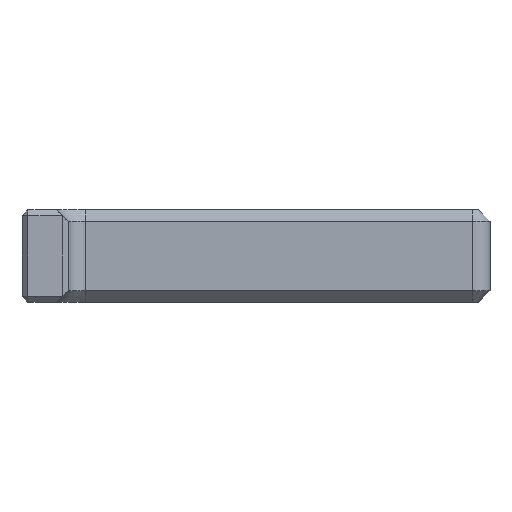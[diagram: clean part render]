
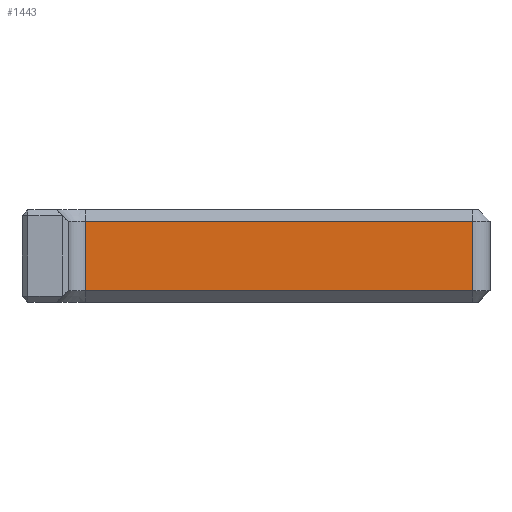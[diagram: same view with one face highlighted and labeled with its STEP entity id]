
A CAD part, left-side view. The second image highlights one B-rep face of the part: STEP entity #1443.
In plain terms, the highlighted planar face has unit normal (-1, 0, 0).
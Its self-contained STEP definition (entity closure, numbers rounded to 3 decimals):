
#149=FACE_OUTER_BOUND('',#239,.T.);
#239=EDGE_LOOP('',(#1249,#1250,#1251,#1252));
#391=LINE('',#2338,#559);
#406=LINE('',#2379,#574);
#407=LINE('',#2383,#575);
#408=LINE('',#2384,#576);
#559=VECTOR('',#1917,10.);
#574=VECTOR('',#1964,10.);
#575=VECTOR('',#1969,10.);
#576=VECTOR('',#1970,10.);
#685=VERTEX_POINT('',#2332);
#686=VERTEX_POINT('',#2336);
#696=VERTEX_POINT('',#2378);
#697=VERTEX_POINT('',#2382);
#864=EDGE_CURVE('',#685,#686,#391,.T.);
#884=EDGE_CURVE('',#686,#696,#406,.T.);
#886=EDGE_CURVE('',#697,#685,#407,.T.);
#887=EDGE_CURVE('',#696,#697,#408,.T.);
#1249=ORIENTED_EDGE('',*,*,#864,.F.);
#1250=ORIENTED_EDGE('',*,*,#886,.F.);
#1251=ORIENTED_EDGE('',*,*,#887,.F.);
#1252=ORIENTED_EDGE('',*,*,#884,.F.);
#1358=PLANE('',#1578);
#1443=ADVANCED_FACE('',(#149),#1358,.T.);
#1578=AXIS2_PLACEMENT_3D('',#2381,#1967,#1968);
#1917=DIRECTION('',(0.,-1.,0.));
#1964=DIRECTION('',(0.,0.,-1.));
#1967=DIRECTION('center_axis',(-1.,0.,0.));
#1968=DIRECTION('ref_axis',(0.,-1.,0.));
#1969=DIRECTION('',(0.,0.,1.));
#1970=DIRECTION('',(0.,1.,0.));
#2332=CARTESIAN_POINT('',(-9.6,8.2,-14.774));
#2336=CARTESIAN_POINT('',(-9.6,-5.2,-14.774));
#2338=CARTESIAN_POINT('',(-9.6,5.55,-14.774));
#2378=CARTESIAN_POINT('',(-9.6,-5.2,-17.174));
#2379=CARTESIAN_POINT('',(-9.6,-5.2,-17.574));
#2381=CARTESIAN_POINT('Origin',(-9.6,8.8,-17.574));
#2382=CARTESIAN_POINT('',(-9.6,8.2,-17.174));
#2383=CARTESIAN_POINT('',(-9.6,8.2,-17.574));
#2384=CARTESIAN_POINT('',(-9.6,5.55,-17.174));
